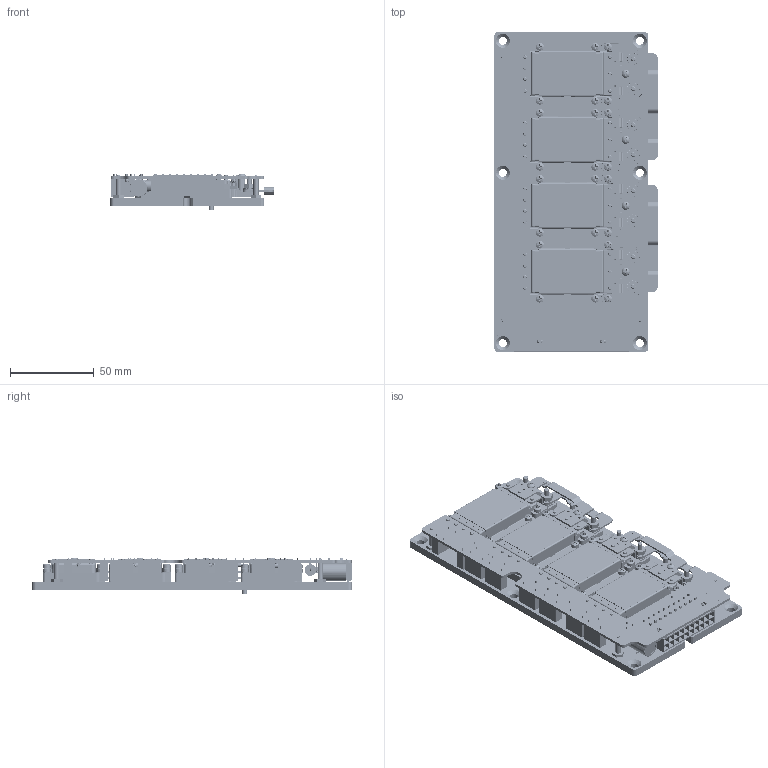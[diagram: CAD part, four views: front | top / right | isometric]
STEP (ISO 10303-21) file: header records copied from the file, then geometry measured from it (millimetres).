
FILE_DESCRIPTION (( 'STEP AP214' ), '1' );
FILE_NAME ('VA-F-LUG-2OUT.STEP', '2011-02-16T16:33:23', ( 'Vicor Employee' ), ( 'Vicor Corporation' ), 'SwSTEP 2.0', 'SolidWorks 2011', '' );
FILE_SCHEMA (( 'AUTOMOTIVE_DESIGN' ));
Length unit declared in the file: inch
Products named in the file (1): VA-F-LUG-2OUT
Bounding box: 97.88 x 191.57 x 22.08 mm (x, y, z)
Volume: 150008 mm3; surface area: 129035.1 mm2
Topology: 1 solids, 1 shells, 8797 faces, 23923 edges, 15292 vertices
Faces by surface type: plane 4733, cylinder 2694, bspline 720, cone 360, torus 170, sphere 120
Entity records: 447511 total; most frequent: CARTESIAN_POINT 115595, ORIENTED_EDGE 47718, DIRECTION 42647, EDGE_CURVE 23859, VERTEX_POINT 15292, LINE 14613, VECTOR 14613, AXIS2_PLACEMENT_3D 14017
